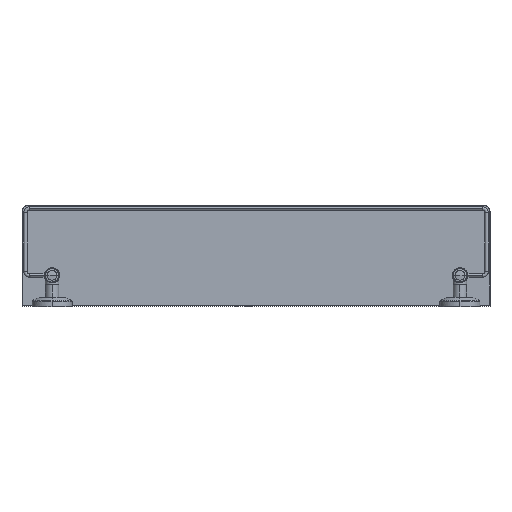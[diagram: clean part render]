
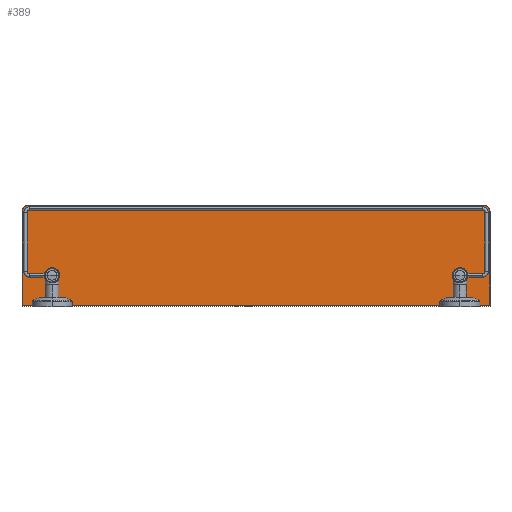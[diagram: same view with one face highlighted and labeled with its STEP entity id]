
A CAD part, top view. The second image highlights one B-rep face of the part: STEP entity #389.
In plain terms, the highlighted planar face has unit normal (0, 0, 1).
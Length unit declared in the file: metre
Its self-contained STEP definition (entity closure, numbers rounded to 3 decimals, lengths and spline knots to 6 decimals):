
#32=VERTEX_POINT('',#33);
#33=CARTESIAN_POINT('',(0.006,0.0329,-0.0631));
#39=EDGE_CURVE('',#40,#32,#42,.T.);
#40=VERTEX_POINT('',#41);
#41=CARTESIAN_POINT('',(-0.006,0.0329,-0.0631));
#42=CIRCLE('',#43,0.006);
#43=AXIS2_PLACEMENT_3D('',#44,#45,#46);
#44=CARTESIAN_POINT('',(0.0,0.0329,-0.0631));
#45=DIRECTION('',(0.0,0.0,-1.0));
#46=DIRECTION('',(-1.0,0.0,0.0));
#74=VERTEX_POINT('',#75);
#75=CARTESIAN_POINT('',(-0.604,0.0329,-0.0631));
#81=EDGE_CURVE('',#82,#74,#84,.T.);
#82=VERTEX_POINT('',#83);
#83=CARTESIAN_POINT('',(-0.616,0.0329,-0.0631));
#84=CIRCLE('',#85,0.006);
#85=AXIS2_PLACEMENT_3D('',#86,#87,#88);
#86=CARTESIAN_POINT('',(-0.61,0.0329,-0.0631));
#87=DIRECTION('',(0.0,0.0,-1.0));
#88=DIRECTION('',(-1.0,0.0,0.0));
#276=CARTESIAN_POINT('',(-0.604,0.0329,-0.0631));
#277=EDGE_CURVE('',#74,#82,#278,.T.);
#278=(B_SPLINE_CURVE(3,(#276,#279,#280,#281),.UNSPECIFIED.,.F.,.U.)B_SPLINE_CURVE_WITH_KNOTS(
  (4,4),(0.0,1.0),.UNSPECIFIED.)BOUNDED_CURVE()CURVE()GEOMETRIC_REPRESENTATION_ITEM(
  )RATIONAL_B_SPLINE_CURVE((1.0,0.333,0.333,1.0)
  )REPRESENTATION_ITEM(''));
#279=CARTESIAN_POINT('',(-0.604,0.0209,-0.0631));
#280=CARTESIAN_POINT('',(-0.616,0.0209,-0.0631));
#281=CARTESIAN_POINT('',(-0.616,0.0329,-0.0631));
#295=CARTESIAN_POINT('',(0.006,0.0329,-0.0631));
#296=EDGE_CURVE('',#32,#40,#297,.T.);
#297=(B_SPLINE_CURVE(3,(#295,#298,#299,#300),.UNSPECIFIED.,.F.,.U.)B_SPLINE_CURVE_WITH_KNOTS(
  (4,4),(0.0,1.0),.UNSPECIFIED.)BOUNDED_CURVE()CURVE()GEOMETRIC_REPRESENTATION_ITEM(
  )RATIONAL_B_SPLINE_CURVE((1.0,0.333,0.333,1.0)
  )REPRESENTATION_ITEM(''));
#298=CARTESIAN_POINT('',(0.006,0.0209,-0.0631));
#299=CARTESIAN_POINT('',(-0.006,0.0209,-0.0631));
#300=CARTESIAN_POINT('',(-0.006,0.0329,-0.0631));
#389=ADVANCED_FACE('',(#395,#447,#451),#390,.F.);
#390=PLANE('',#391);
#391=AXIS2_PLACEMENT_3D('',#392,#393,#394);
#392=CARTESIAN_POINT('',(-0.305,-0.0121,-0.0631));
#393=DIRECTION('',(0.0,0.0,-1.0));
#394=DIRECTION('',(0.0,-1.0,0.0));
#395=FACE_OUTER_BOUND('',#396,.T.);
#396=EDGE_LOOP('',(#397,#407,#415,#423,#432,#440));
#397=ORIENTED_EDGE('',*,*,#398,.T.);
#398=EDGE_CURVE('',#399,#401,#403,.T.);
#399=VERTEX_POINT('',#400);
#400=CARTESIAN_POINT('',(-0.6545,0.1289,-0.0631));
#401=VERTEX_POINT('',#402);
#402=CARTESIAN_POINT('',(-0.6545,-0.0116,-0.0631));
#403=LINE('',#404,#405);
#404=CARTESIAN_POINT('',(-0.6545,-0.0121,-0.0631));
#405=VECTOR('',#406,1.0);
#406=DIRECTION('',(0.0,-1.0,0.0));
#407=ORIENTED_EDGE('',*,*,#408,.T.);
#408=EDGE_CURVE('',#401,#409,#411,.T.);
#409=VERTEX_POINT('',#410);
#410=CARTESIAN_POINT('',(0.0445,-0.0116,-0.0631));
#411=LINE('',#412,#413);
#412=CARTESIAN_POINT('',(-0.305,-0.0116,-0.0631));
#413=VECTOR('',#414,1.0);
#414=DIRECTION('',(1.0,0.0,0.0));
#415=ORIENTED_EDGE('',*,*,#416,.T.);
#416=EDGE_CURVE('',#409,#417,#419,.T.);
#417=VERTEX_POINT('',#418);
#418=CARTESIAN_POINT('',(0.0445,0.1289,-0.0631));
#419=LINE('',#420,#421);
#420=CARTESIAN_POINT('',(0.0445,-0.0121,-0.0631));
#421=VECTOR('',#422,1.0);
#422=DIRECTION('',(0.0,1.0,0.0));
#423=ORIENTED_EDGE('',*,*,#424,.T.);
#424=EDGE_CURVE('',#417,#425,#427,.F.);
#425=VERTEX_POINT('',#426);
#426=CARTESIAN_POINT('',(0.036,0.1374,-0.0631));
#427=CIRCLE('',#428,0.0085);
#428=AXIS2_PLACEMENT_3D('',#429,#430,#431);
#429=CARTESIAN_POINT('',(0.036,0.1289,-0.0631));
#430=DIRECTION('',(0.0,0.0,-1.0));
#431=DIRECTION('',(-1.0,0.0,0.0));
#432=ORIENTED_EDGE('',*,*,#433,.T.);
#433=EDGE_CURVE('',#425,#434,#436,.T.);
#434=VERTEX_POINT('',#435);
#435=CARTESIAN_POINT('',(-0.646,0.1374,-0.0631));
#436=LINE('',#437,#438);
#437=CARTESIAN_POINT('',(-0.305,0.1374,-0.0631));
#438=VECTOR('',#439,1.0);
#439=DIRECTION('',(-1.0,0.0,0.0));
#440=ORIENTED_EDGE('',*,*,#441,.T.);
#441=EDGE_CURVE('',#434,#399,#442,.F.);
#442=CIRCLE('',#443,0.0085);
#443=AXIS2_PLACEMENT_3D('',#444,#445,#446);
#444=CARTESIAN_POINT('',(-0.646,0.1289,-0.0631));
#445=DIRECTION('',(0.0,0.0,-1.0));
#446=DIRECTION('',(-1.0,0.0,0.0));
#447=FACE_BOUND('',#448,.T.);
#448=EDGE_LOOP('',(#449,#450));
#449=ORIENTED_EDGE('',*,*,#39,.T.);
#450=ORIENTED_EDGE('',*,*,#296,.T.);
#451=FACE_BOUND('',#452,.T.);
#452=EDGE_LOOP('',(#453,#454));
#453=ORIENTED_EDGE('',*,*,#81,.T.);
#454=ORIENTED_EDGE('',*,*,#277,.T.);
